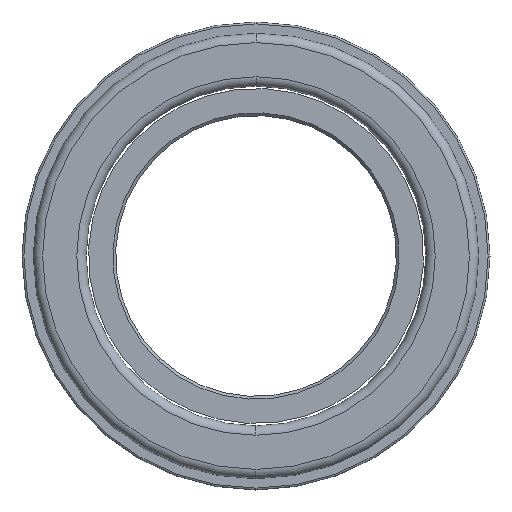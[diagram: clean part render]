
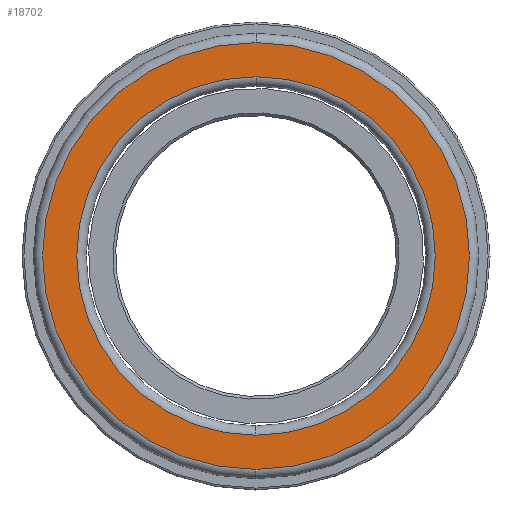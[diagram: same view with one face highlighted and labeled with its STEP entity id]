
A CAD part, left-side view. The second image highlights one B-rep face of the part: STEP entity #18702.
In plain terms, the highlighted planar face has unit normal (-1, 0, 0).
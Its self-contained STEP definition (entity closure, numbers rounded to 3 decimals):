
#1620 = CARTESIAN_POINT ( 'NONE',  ( 0., 0., -22.8 ) ) ;
#2279 = AXIS2_PLACEMENT_3D ( 'NONE', #27035, #27140, #10546 ) ;
#3016 = EDGE_CURVE ( 'NONE', #6188, #12988, #34613, .T. ) ;
#4263 = EDGE_LOOP ( 'NONE', ( #29506, #13143 ) ) ;
#4524 = ORIENTED_EDGE ( 'NONE', *, *, #3016, .T. ) ;
#5663 = CARTESIAN_POINT ( 'NONE',  ( 0., 0., 0. ) ) ;
#5681 = FACE_BOUND ( 'NONE', #4263, .T. ) ;
#5704 = CARTESIAN_POINT ( 'NONE',  ( 0., 0., -19.15 ) ) ;
#6188 = VERTEX_POINT ( 'NONE', #1620 ) ;
#7463 = CARTESIAN_POINT ( 'NONE',  ( 0., 0., 0. ) ) ;
#7605 = PLANE ( 'NONE',  #2279 ) ;
#8426 = DIRECTION ( 'NONE',  ( 0., 0., 1. ) ) ;
#9214 = DIRECTION ( 'NONE',  ( -1., 0., 0. ) ) ;
#9816 = EDGE_CURVE ( 'NONE', #12988, #6188, #18898, .T. ) ;
#10294 = DIRECTION ( 'NONE',  ( 0., 0., 1. ) ) ;
#10546 = DIRECTION ( 'NONE',  ( 0., 0., -1. ) ) ;
#10730 = VERTEX_POINT ( 'NONE', #5704 ) ;
#11877 = AXIS2_PLACEMENT_3D ( 'NONE', #7463, #26888, #10294 ) ;
#12003 = CARTESIAN_POINT ( 'NONE',  ( 0., 0., 0. ) ) ;
#12988 = VERTEX_POINT ( 'NONE', #22802 ) ;
#13090 = FACE_OUTER_BOUND ( 'NONE', #16249, .T. ) ;
#13143 = ORIENTED_EDGE ( 'NONE', *, *, #14932, .F. ) ;
#13706 = ORIENTED_EDGE ( 'NONE', *, *, #9816, .T. ) ;
#14798 = DIRECTION ( 'NONE',  ( 0., 0., 1. ) ) ;
#14932 = EDGE_CURVE ( 'NONE', #10730, #22329, #30759, .T. ) ;
#16249 = EDGE_LOOP ( 'NONE', ( #13706, #4524 ) ) ;
#18409 = EDGE_CURVE ( 'NONE', #22329, #10730, #31283, .T. ) ;
#18702 = ADVANCED_FACE ( 'NONE', ( #5681, #13090 ), #7605, .F. ) ;
#18898 = CIRCLE ( 'NONE', #24378, 22.8 ) ;
#22329 = VERTEX_POINT ( 'NONE', #31747 ) ;
#22802 = CARTESIAN_POINT ( 'NONE',  ( 0., 0., 22.8 ) ) ;
#24378 = AXIS2_PLACEMENT_3D ( 'NONE', #5663, #25086, #8426 ) ;
#25086 = DIRECTION ( 'NONE',  ( -1., 0., 0. ) ) ;
#25825 = CARTESIAN_POINT ( 'NONE',  ( 0., 0., 0. ) ) ;
#26888 = DIRECTION ( 'NONE',  ( -1., 0., 0. ) ) ;
#27035 = CARTESIAN_POINT ( 'NONE',  ( 0., 19.15, 0. ) ) ;
#27140 = DIRECTION ( 'NONE',  ( 1., 0., 0. ) ) ;
#28577 = DIRECTION ( 'NONE',  ( 0., 0., 1. ) ) ;
#29506 = ORIENTED_EDGE ( 'NONE', *, *, #18409, .F. ) ;
#30345 = AXIS2_PLACEMENT_3D ( 'NONE', #25825, #9214, #28577 ) ;
#30759 = CIRCLE ( 'NONE', #11877, 19.15 ) ;
#31283 = CIRCLE ( 'NONE', #30345, 19.15 ) ;
#31360 = DIRECTION ( 'NONE',  ( -1., 0., 0. ) ) ;
#31747 = CARTESIAN_POINT ( 'NONE',  ( 0., 0., 19.15 ) ) ;
#32622 = AXIS2_PLACEMENT_3D ( 'NONE', #12003, #31360, #14798 ) ;
#34613 = CIRCLE ( 'NONE', #32622, 22.8 ) ;
